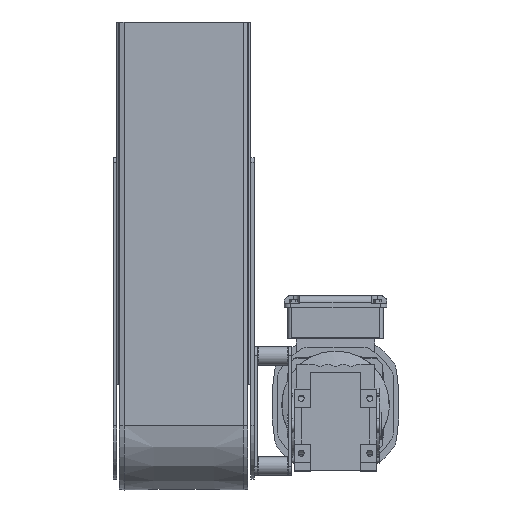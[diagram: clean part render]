
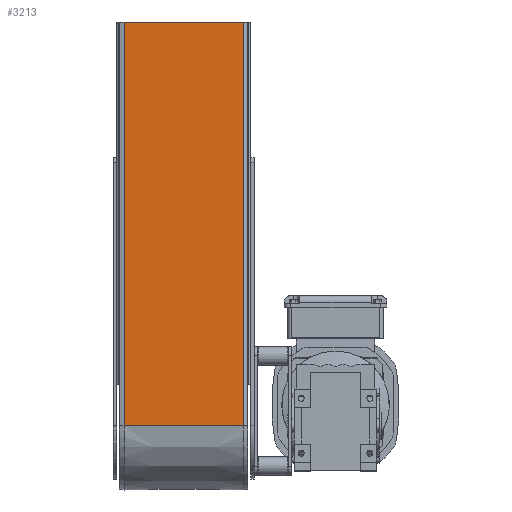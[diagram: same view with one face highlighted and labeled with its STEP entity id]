
A CAD part, top view. The second image highlights one B-rep face of the part: STEP entity #3213.
In plain terms, the highlighted planar face has unit normal (0, 0, 1) as drawn and (0, 1, 0) by its records, which use the part's own axes.
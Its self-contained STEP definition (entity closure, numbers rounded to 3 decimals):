
#2660=CARTESIAN_POINT('',(-2.355,96.112,440.));
#2661=VERTEX_POINT('',#2660);
#2685=CARTESIAN_POINT('',(127.645,96.11,440.));
#2686=VERTEX_POINT('',#2685);
#2694=CARTESIAN_POINT('',(-2.355,96.112,440.0));
#2695=DIRECTION('',(1.,0.,0.0));
#2696=VECTOR('',#2695,130.);
#2697=LINE('',#2694,#2696);
#2698=EDGE_CURVE('',#2661,#2686,#2697,.T.);
#3171=CARTESIAN_POINT('',(-2.355,96.112,0.0));
#3172=VERTEX_POINT('',#3171);
#3173=CARTESIAN_POINT('',(-2.355,96.112,0.0));
#3174=DIRECTION('',(0.0,0.0,1.0));
#3175=VECTOR('',#3174,440.);
#3176=LINE('',#3173,#3175);
#3177=EDGE_CURVE('',#3172,#2661,#3176,.T.);
#3190=CARTESIAN_POINT('',(-2.355,96.112,0.0));
#3191=DIRECTION('',(0.,1.,0.0));
#3192=DIRECTION('',(0.0,0.0,1.0));
#3193=AXIS2_PLACEMENT_3D('',#3190,#3191,#3192);
#3194=PLANE('',#3193);
#3195=CARTESIAN_POINT('',(127.645,96.11,0.0));
#3196=VERTEX_POINT('',#3195);
#3197=CARTESIAN_POINT('',(127.645,96.11,0.0));
#3198=DIRECTION('',(0.0,0.0,1.0));
#3199=VECTOR('',#3198,440.);
#3200=LINE('',#3197,#3199);
#3201=EDGE_CURVE('',#3196,#2686,#3200,.T.);
#3202=ORIENTED_EDGE('',*,*,#3201,.F.);
#3203=CARTESIAN_POINT('',(127.645,96.11,0.0));
#3204=DIRECTION('',(-1.,0.,0.0));
#3205=VECTOR('',#3204,130.);
#3206=LINE('',#3203,#3205);
#3207=EDGE_CURVE('',#3196,#3172,#3206,.T.);
#3208=ORIENTED_EDGE('',*,*,#3207,.T.);
#3209=ORIENTED_EDGE('',*,*,#3177,.T.);
#3210=ORIENTED_EDGE('',*,*,#2698,.T.);
#3211=EDGE_LOOP('',(#3202,#3208,#3209,#3210));
#3212=FACE_OUTER_BOUND('',#3211,.T.);
#3213=ADVANCED_FACE('',(#3212),#3194,.T.);
